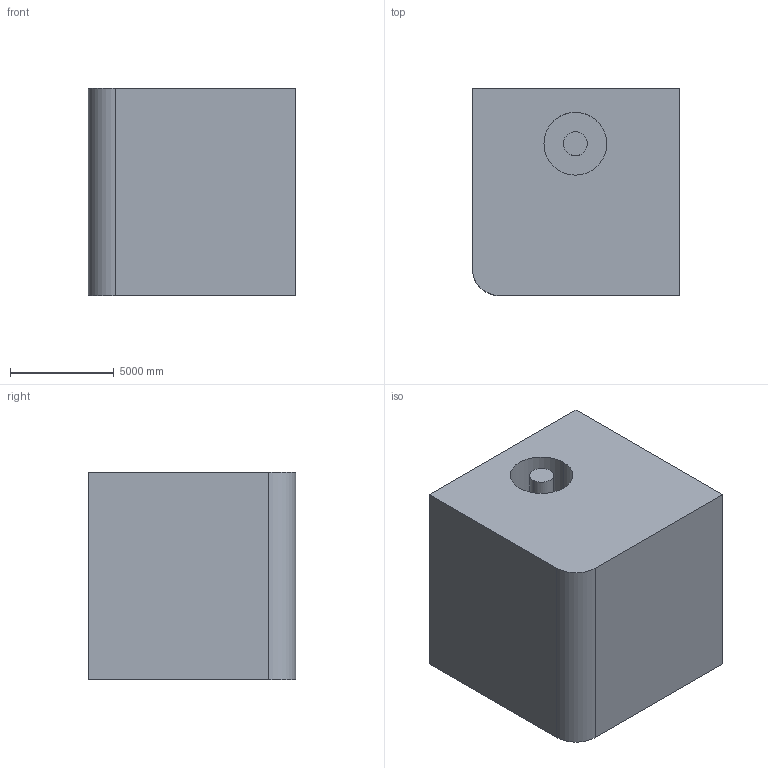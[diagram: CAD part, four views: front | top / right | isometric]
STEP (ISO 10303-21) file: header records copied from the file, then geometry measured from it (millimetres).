
FILE_DESCRIPTION (( 'STEP AP203' ), '1' );
FILE_NAME ('221.STEP', '2022-09-07T12:20:25', ( 'user' ), ( '' ), 'SwSTEP 2.0', 'SolidWorks 2021', '' );
FILE_SCHEMA (( 'CONFIG_CONTROL_DESIGN' ));
Length unit declared in the file: centimetre
Products named in the file (1): 221
Bounding box: 10000 x 10000 x 10000 mm (x, y, z)
Volume: 983774891734.5 mm3; surface area: 620356937.7 mm2
Topology: 1 solids, 1 shells, 13 faces, 27 edges, 18 vertices
Faces by surface type: plane 8, cylinder 5
Entity records: 428 total; most frequent: DIRECTION 65, CARTESIAN_POINT 59, ORIENTED_EDGE 54, EDGE_CURVE 27, AXIS2_PLACEMENT_3D 24, VERTEX_POINT 18, VECTOR 17, LINE 17
